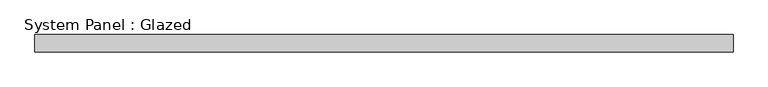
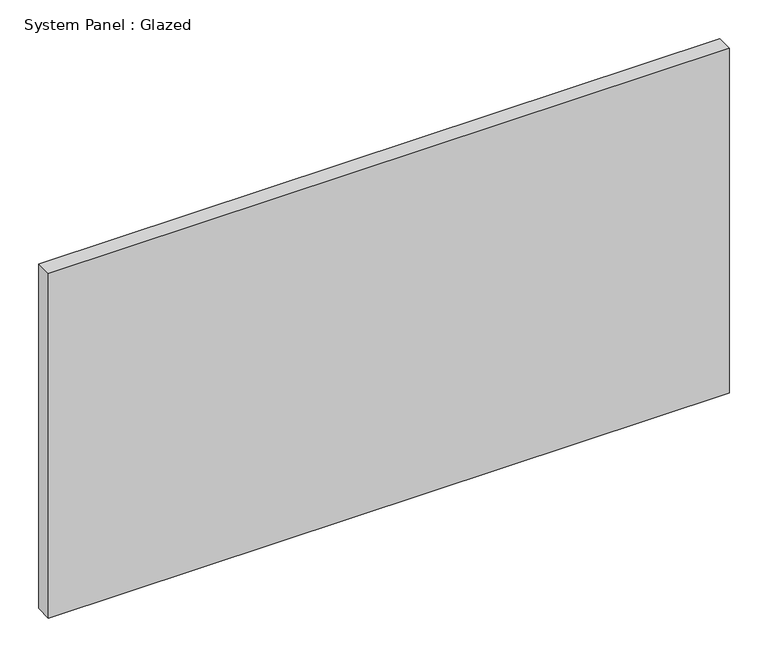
"""IFC4 building model written with IfcOpenShell, lengths in millimetres: plate geometry, System Panel : Glazed."""

from ifc_helpers import new_model, si_unit, origin, origin_with_axes, place, context, project, spatial, polyline, outline, extrude, source, transform, mapped, element, save


def system_panel_glazed_9be232bd(model_context):
    return source(origin(), model_context, "Body", "SweptSolid", [
        extrude(outline(polyline([(510.2678571, 19.05), (-510.2678571, 19.05), (-510.2678571, 44.45), (510.2678571, 44.45), (510.2678571, 19.05)])), origin_with_axes(), (0.0, 0.0, 1.0), 546.1),
    ])


if __name__ == "__main__":
    model = new_model("IFC4")
    model_context = context("Model", 3, world=origin())
    ifc_project = project(units=[si_unit("LENGTHUNIT", "METRE", prefix="MILLI")], contexts=[model_context])
    site = spatial("IfcSite", under=ifc_project)
    building = spatial("IfcBuilding", under=site)
    placement = place(None, origin())
    system_panel_glazed_shape = system_panel_glazed_9be232bd(model_context)
    element("IfcPlate", 1, ObjectType="System Panel : Glazed", at=placement, inside=building, context=model_context, shape_type="MappedRepresentation", body=[
        mapped(system_panel_glazed_shape, transform((0.0, 0.0, 0.0), x_axis=(1.0, 0.0, 0.0), y_axis=(0.0, 1.0, 0.0), z_axis=(0.0, 0.0, 1.0))),
    ])
    save(model, "model.ifc")
